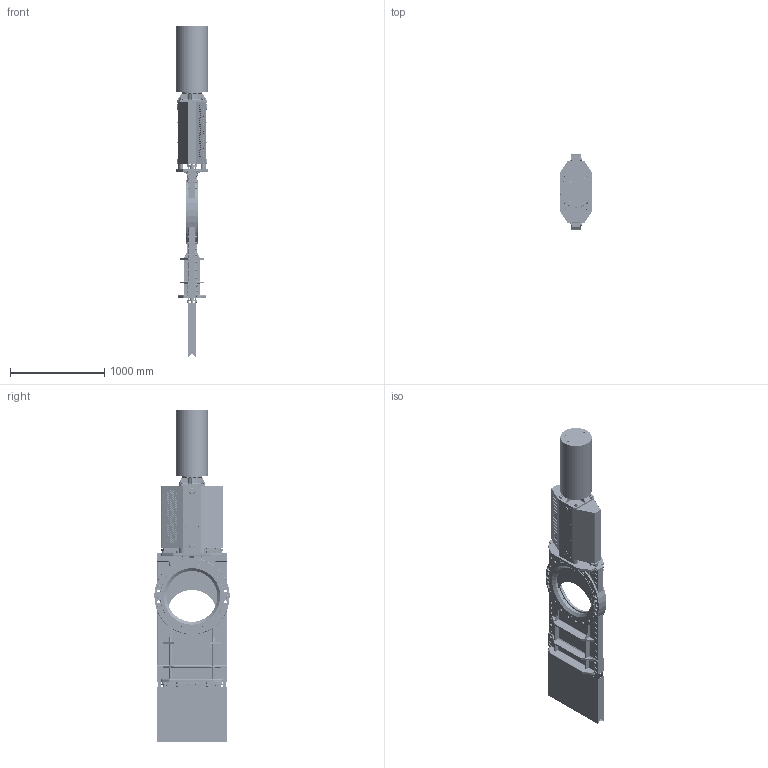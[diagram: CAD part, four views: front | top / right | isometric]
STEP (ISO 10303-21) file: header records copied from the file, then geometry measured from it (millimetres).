
FILE_DESCRIPTION(('STEP AP203'),'1');
FILE_NAME('G:/KONSTRUK/3-d block för CD/HG VALVE/PNEUMATIC ACTUATOR/HG-DN600-PN10-EC320.stp','2011-12-20T10:42:51',(' '),(' '),'Spatial InterOp 3D',' ',' ');
FILE_SCHEMA(('CONFIG_CONTROL_DESIGN'));
Length unit declared in the file: millimetre
Products named in the file (19): 1; 2; 3; 4; 5; 6; 7; 8; 9; 10; 11; 12; 13; 14; 15; 16; 17; 18; 19
Bounding box: 350 x 797.71 x 3528.03 mm (x, y, z)
Volume: 162859212.8 mm3; surface area: 14999577.7 mm2
Topology: 19 solids, 61 shells, 6870 faces, 17205 edges, 10869 vertices
Faces by surface type: cylinder 2740, plane 2413, cone 1344, torus 174, sphere 140, bspline 59
Entity records: 219380 total; most frequent: CARTESIAN_POINT 53441, DIRECTION 36184, ORIENTED_EDGE 34100, EDGE_CURVE 17050, AXIS2_PLACEMENT_3D 14420, VERTEX_POINT 10869, EDGE_LOOP 8057, LINE 7344
